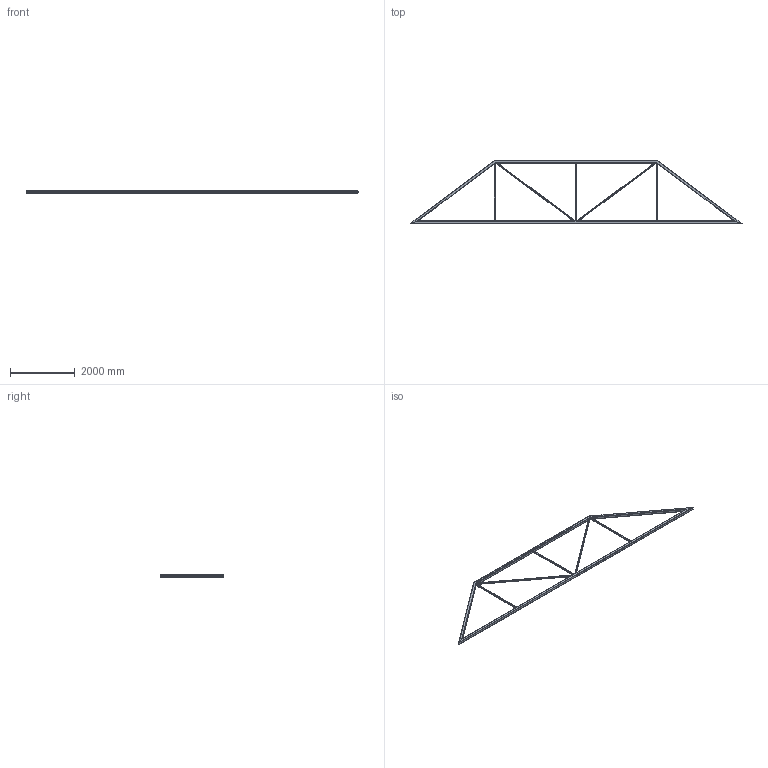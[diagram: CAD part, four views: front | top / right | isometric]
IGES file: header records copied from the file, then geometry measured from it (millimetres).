
Start section: SolidWorks IGES file using analytic representation for surfaces
Global section: file name: C:\Documents and Settings\Pc\Escritorio\Modelos 3D\Capítulo 7 (Vigas)\PRACTICAS\P-17\Estudio-1 (Estructura).IGS; native system: SolidWorks 2010; preprocessor: SolidWorks 2010; author: Pc; date: 100623.114546; units: millimetre
Bounding box: 10240.69 x 1948.3 x 80 mm (x, y, z)
Surface area: 15266435.5 mm2 (no closed solid volume)
Topology: 0 solids, 0 shells, 164 faces, 2752 edges, 2752 vertices
Faces by surface type: bspline 92, revolution 72
